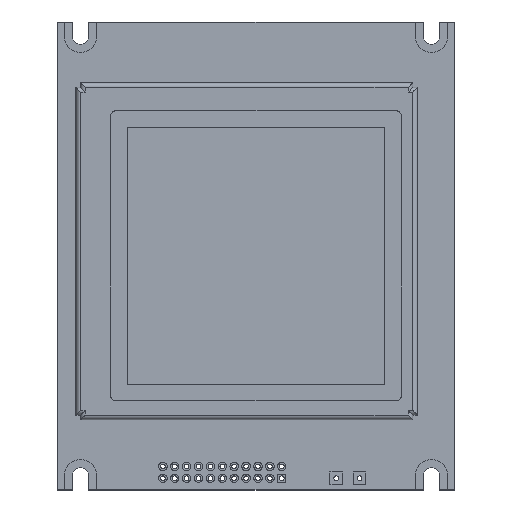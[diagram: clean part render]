
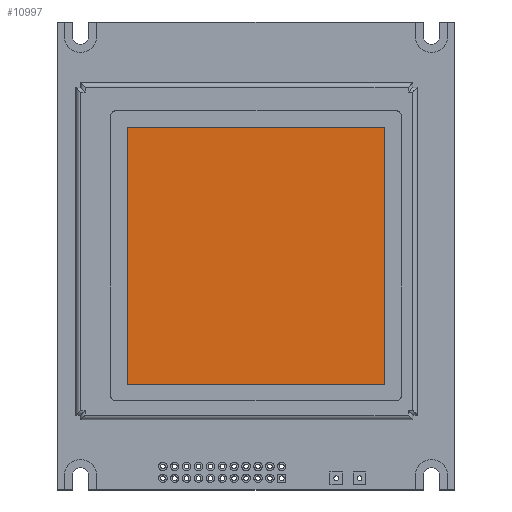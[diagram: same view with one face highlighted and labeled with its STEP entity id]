
A CAD part, top view. The second image highlights one B-rep face of the part: STEP entity #10997.
In plain terms, the highlighted planar face has unit normal (0, 0, 1).
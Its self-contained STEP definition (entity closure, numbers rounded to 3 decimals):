
#306 = AXIS2_PLACEMENT_3D ( 'NONE', #16689, #18306, #7634 ) ;
#851 = ORIENTED_EDGE ( 'NONE', *, *, #8774, .F. ) ;
#1134 = DIRECTION ( 'NONE',  ( -1., 0., 0. ) ) ;
#1991 = VERTEX_POINT ( 'NONE', #2244 ) ;
#2244 = CARTESIAN_POINT ( 'NONE',  ( 70.01, -22.5, 10.5 ) ) ;
#2431 = VECTOR ( 'NONE', #1134, 1000. ) ;
#2869 = VECTOR ( 'NONE', #14155, 1000. ) ;
#3363 = CARTESIAN_POINT ( 'NONE',  ( 70.01, -77.51, 10.5 ) ) ;
#3672 = ORIENTED_EDGE ( 'NONE', *, *, #19258, .F. ) ;
#3906 = LINE ( 'NONE', #13577, #2431 ) ;
#4998 = VERTEX_POINT ( 'NONE', #17010 ) ;
#5738 = VECTOR ( 'NONE', #18508, 1000. ) ;
#6093 = LINE ( 'NONE', #12575, #18181 ) ;
#6216 = EDGE_CURVE ( 'NONE', #8432, #1991, #7555, .T. ) ;
#6979 = CARTESIAN_POINT ( 'NONE',  ( 15., -22.5, 10.5 ) ) ;
#7555 = LINE ( 'NONE', #12693, #2869 ) ;
#7634 = DIRECTION ( 'NONE',  ( 1., 0., 0. ) ) ;
#8141 = EDGE_CURVE ( 'NONE', #15718, #4998, #3906, .T. ) ;
#8432 = VERTEX_POINT ( 'NONE', #6979 ) ;
#8774 = EDGE_CURVE ( 'NONE', #4998, #8432, #12258, .T. ) ;
#8776 = PLANE ( 'NONE',  #306 ) ;
#9169 = CARTESIAN_POINT ( 'NONE',  ( 15., 0., 10.5 ) ) ;
#10997 = ADVANCED_FACE ( 'NONE', ( #16791 ), #8776, .T. ) ;
#11029 = DIRECTION ( 'NONE',  ( 0., -1., 0. ) ) ;
#11755 = EDGE_LOOP ( 'NONE', ( #851, #18007, #3672, #12916 ) ) ;
#12258 = LINE ( 'NONE', #9169, #5738 ) ;
#12575 = CARTESIAN_POINT ( 'NONE',  ( 70.01, 0., 10.5 ) ) ;
#12693 = CARTESIAN_POINT ( 'NONE',  ( 0., -22.5, 10.5 ) ) ;
#12916 = ORIENTED_EDGE ( 'NONE', *, *, #6216, .F. ) ;
#13577 = CARTESIAN_POINT ( 'NONE',  ( 0., -77.51, 10.5 ) ) ;
#14155 = DIRECTION ( 'NONE',  ( 1., 0., 0. ) ) ;
#15718 = VERTEX_POINT ( 'NONE', #3363 ) ;
#16689 = CARTESIAN_POINT ( 'NONE',  ( 0., 0., 10.5 ) ) ;
#16791 = FACE_OUTER_BOUND ( 'NONE', #11755, .T. ) ;
#17010 = CARTESIAN_POINT ( 'NONE',  ( 15., -77.51, 10.5 ) ) ;
#18007 = ORIENTED_EDGE ( 'NONE', *, *, #8141, .F. ) ;
#18181 = VECTOR ( 'NONE', #11029, 1000. ) ;
#18306 = DIRECTION ( 'NONE',  ( 0., 0., 1. ) ) ;
#18508 = DIRECTION ( 'NONE',  ( 0., 1., 0. ) ) ;
#19258 = EDGE_CURVE ( 'NONE', #1991, #15718, #6093, .T. ) ;
